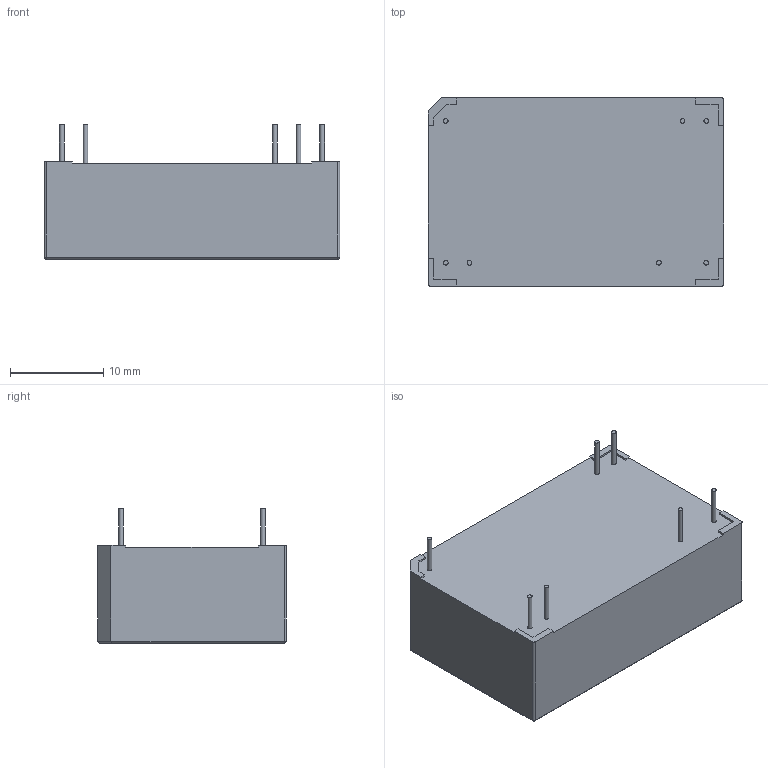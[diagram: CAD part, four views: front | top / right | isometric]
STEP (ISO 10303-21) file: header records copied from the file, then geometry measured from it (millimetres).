
FILE_DESCRIPTION((''),'2;1');
FILE_NAME('C:\Documents and Settings\COSMOS\桌面\新資料夾\MIHW1000+MIHW2000+MIE03-HI+MIEI03-HI.stp','2015-11-17T14:29:49',('COSMOS'),(''),'Autodesk Inventor 2008','Autodesk Inventor 2008','');
FILE_SCHEMA(('AUTOMOTIVE_DESIGN { 1 0 10303 214 1 1 1 1 }'));
Length unit declared in the file: millimetre
Products named in the file (1): MIHW1000+MIHW2000+MIE03-HI+MIEI03-HI
Bounding box: 31.7 x 20.2 x 14.4 mm (x, y, z)
Volume: 6592.8 mm3; surface area: 2382.2 mm2
Topology: 1 solids, 1 shells, 53 faces, 124 edges, 77 vertices
Faces by surface type: plane 35, cylinder 15, sphere 3
Full cylindrical faces by diameter (mm): 0.5 x7
Entity records: 1466 total; most frequent: DIRECTION 250, CARTESIAN_POINT 245, ORIENTED_EDGE 228, EDGE_CURVE 114, VECTOR 86, LINE 86, AXIS2_PLACEMENT_3D 82, VERTEX_POINT 77
